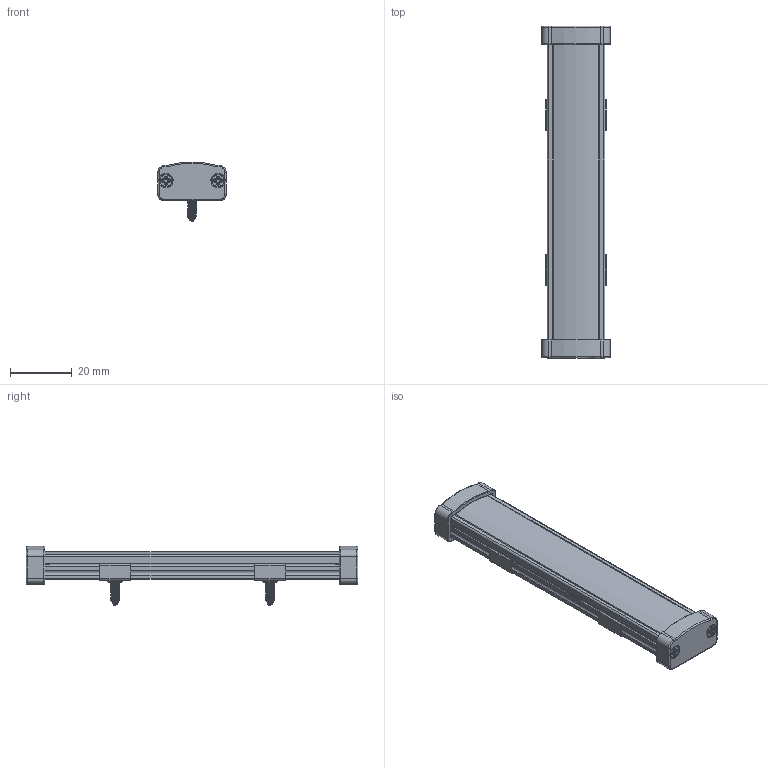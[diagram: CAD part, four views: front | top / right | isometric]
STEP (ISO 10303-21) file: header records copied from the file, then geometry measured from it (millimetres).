
FILE_DESCRIPTION(/* description */ (''),/* implementation_level */ '2;1');
FILE_NAME(/* name */ 'c:\worker\convert-fusion-r02\tmp\job-1\314\output\files\1051ca81-c24d-4a71-815e-d2936be10dba\cb844c01-efed-4c90-861f-ed25b2f88677.stp',/* time_stamp */ '2022-03-30T12:52:28+00:00',/* author */ (''),/* organization */ (''),/* preprocessor_version */ 'ST-DEVELOPER v18.1',/* originating_system */ 'Autodesk Translation Framework v10.14.0.1471',/* authorisation */ '');
FILE_SCHEMA (('AUTOMOTIVE_DESIGN { 1 0 10303 214 3 1 1 }'));
Products named in the file (15): CHAN-188IP65; M3x6mm; LED Strip Light; Silicone End Caps; Aluminium Profile; Light Diffuser / Lens; Aluminium Spine; Mounting Bracket; Mounting Bracket (1); End Cap (1); End Cap Screw (2); End Cap w/ Cable Out; End Cap Screw (3); End Cap Screw (4); End Cap Screw (5)
Assembly tree (17 placements, depth 2):
  CHAN-188IP65
    M3x6mm  x2
    Silicone End Caps  x2
    LED Strip Light  x2
    Aluminium Profile
    Light Diffuser / Lens
    Aluminium Spine
    Mounting Bracket
    Mounting Bracket (1)
    End Cap (1)
    End Cap Screw (2)
    End Cap w/ Cable Out
    End Cap Screw (3)
    End Cap Screw (4)
    End Cap Screw (5)
Bounding box: 22.1 x 107.18 x 19.34 mm (x, y, z)
Volume: 14016.5 mm3; surface area: 25989.6 mm2
Topology: 93 solids, 93 shells, 1757 faces, 4089 edges, 2518 vertices
Faces by surface type: cylinder 683, plane 582, torus 190, bspline 162, sphere 100, cone 40
Full cylindrical faces by diameter (mm): 1.139 x24, 1.25 x4, 1.538 x40, 2.356 x8, 2.927 x14, 3.4 x2, 4 x4, 4.2 x4
Entity records: 50067 total; most frequent: CARTESIAN_POINT 20177, ORIENTED_EDGE 6144, DIRECTION 6133, EDGE_CURVE 3072, AXIS2_PLACEMENT_3D 2401, VERTEX_POINT 1894, LINE 1331, VECTOR 1331
